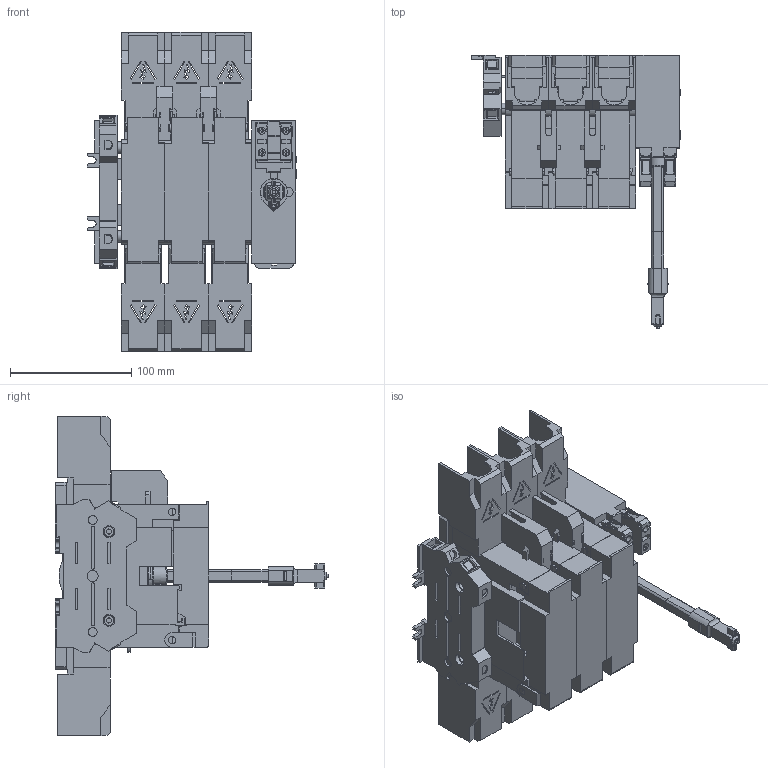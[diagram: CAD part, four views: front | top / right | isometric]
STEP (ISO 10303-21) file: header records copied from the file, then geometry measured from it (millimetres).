
FILE_DESCRIPTION((''),'2;1');
FILE_NAME('194R-D160-1753_ASM','2013-03-01T',('Dhanya'),(''),'PRO/ENGINEER BY PARAMETRIC TECHNOLOGY CORPORATION, 2010140','PRO/ENGINEER BY PARAMETRIC TECHNOLOGY CORPORATION, 2010140','');
FILE_SCHEMA(('CONFIG_CONTROL_DESIGN'));
Products named in the file (19): PRT0002; PRT0003; PRT0004; PRT0005; PRT0006; PRT0007; PRT0008; PRT0009; PRT0010; PRT0011; PRT0012; MANIFOLD_SOLID_BREP_299; MANIFOLD_SOLID_BREP_300; MANIFOLD_SOLID_BREP_301; MANIFOLD_SOLID_BREP_302; MANIFOLD_SOLID_BREP_303; MANIFOLD_SOLID_BREP_304; 194R-D160-1753_STP_ASM; 194R-D160-1753_ASM
Assembly tree (18 placements, depth 3):
  194R-D160-1753_ASM
    194R-D160-1753_STP_ASM
      PRT0002
      PRT0003
      PRT0004
      PRT0005
      PRT0006
      PRT0007
      PRT0008
      PRT0009
      PRT0010
      PRT0011
      PRT0012
      MANIFOLD_SOLID_BREP_299
      MANIFOLD_SOLID_BREP_300
      MANIFOLD_SOLID_BREP_301
      MANIFOLD_SOLID_BREP_302
      MANIFOLD_SOLID_BREP_303
      MANIFOLD_SOLID_BREP_304
Bounding box: 173.5 x 226.2 x 264 mm (x, y, z)
Volume: 1429598.7 mm3; surface area: 406408 mm2
Topology: 17 solids, 30 shells, 2512 faces, 7008 edges, 4648 vertices
Faces by surface type: plane 2142, cylinder 318, cone 32, torus 10, bspline 10
Entity records: 81881 total; most frequent: CARTESIAN_POINT 16207, ORIENTED_EDGE 14016, DIRECTION 12782, EDGE_CURVE 7008, VECTOR 6022, LINE 6022, VERTEX_POINT 4648, AXIS2_PLACEMENT_3D 3380
